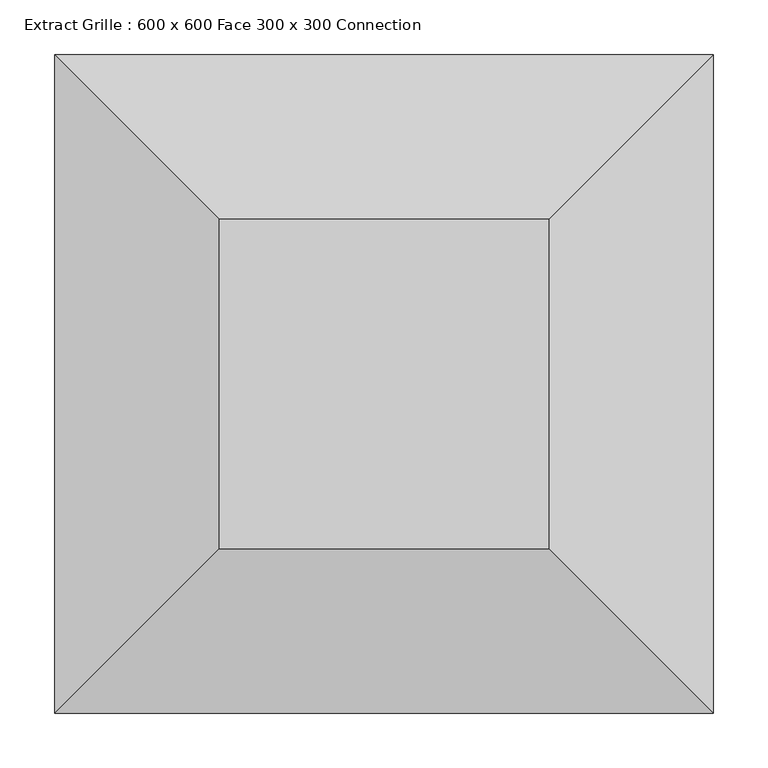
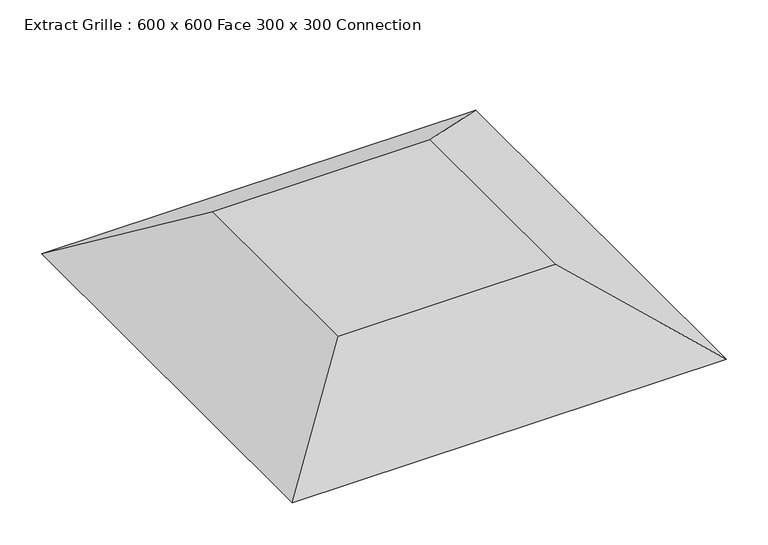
"""IFC4 building model written with IfcOpenShell, lengths in millimetres: air terminal geometry, Extract Grille : 600 x 600 Face 300 x 300 Connection."""

import ifcopenshell
import ifcopenshell.guid

model = None  # the IFC model being written
_history = None  # IfcOwnerHistory: only IFC2X3 demands one
_inside = {}  # id of a spatial element -> (the spatial element, [elements in it])
_under = {}  # id of a project, library or spatial element -> (it, [spatial elements below it])
_declared = {}  # id of a project -> (the project, [libraries it declares])
_typed = {}  # id of a type object -> (the type object, [elements of that type])
_made_of = {}  # id of a material, layer set ... -> (it, [elements and type objects made of it])


def new_model(schema):
    """Start an empty IFC model of exactly this schema.

    Asked for "IFC4X3", IfcOpenShell would pick the latest addendum, in which some entities
    have other attributes; the version numbers below select the first issue.
    IFC2X3 requires an IfcOwnerHistory on every rooted entity: one is made here for all.
    """
    global model, _history
    if schema == "IFC4X3":
        model = ifcopenshell.file(schema_version=(4, 3, 0, 0))
    else:
        model = ifcopenshell.file(schema=schema)
    _inside.clear()
    _under.clear()
    _declared.clear()
    _typed.clear()
    _made_of.clear()
    _history = None
    if model.schema == "IFC2X3":
        org = make("IfcOrganization", Name="unknown")
        user = make(
            "IfcPersonAndOrganization",
            ThePerson=make("IfcPerson", FamilyName="unknown"),
            TheOrganization=org,
        )
        app = make(
            "IfcApplication",
            ApplicationDeveloper=org,
            Version="unknown",
            ApplicationFullName="unknown",
            ApplicationIdentifier="unknown",
        )
        _history = make(
            "IfcOwnerHistory",
            OwningUser=user,
            OwningApplication=app,
            ChangeAction="ADDED",
            CreationDate=0,
        )
    return model


def make(cls, **values):
    """One entity of the class cls with the attributes given. An attribute that is None is left unset."""
    return model.create_entity(
        cls, **{name: value for name, value in values.items() if value is not None}
    )


def rooted(cls, **values):
    """An entity with a GlobalId (a new one), such as an element, a storey or a relation."""
    return make(cls, GlobalId=ifcopenshell.guid.new(), OwnerHistory=_history, **values)


def si_unit(unit_type, name, prefix=None):
    """IfcSIUnit, for example si_unit("LENGTHUNIT", "METRE", prefix="MILLI")."""
    return make("IfcSIUnit", UnitType=unit_type, Prefix=prefix, Name=name)


def assignment(units):
    """IfcUnitAssignment: the units of a project."""
    return None if units is None else make("IfcUnitAssignment", Units=units)


def point(xyz):
    """IfcCartesianPoint."""
    return None if xyz is None else make("IfcCartesianPoint", Coordinates=xyz)


def direction(xyz):
    """IfcDirection."""
    return None if xyz is None else make("IfcDirection", DirectionRatios=xyz)


def frame(location, z_axis=None, x_axis=None):
    """IfcAxis2Placement3D, a coordinate frame: its origin and axes. An axis left out is left unset."""
    return make(
        "IfcAxis2Placement3D",
        Location=point(location),
        Axis=direction(z_axis),
        RefDirection=direction(x_axis),
    )


def origin():
    """The frame at (0, 0, 0) with its axes left unset."""
    return frame((0.0, 0.0, 0.0))


def place(relative_to, where):
    """IfcLocalPlacement: puts the frame where relative to a parent placement (None: the world)."""
    return make(
        "IfcLocalPlacement", PlacementRelTo=relative_to, RelativePlacement=where
    )


def context(
    kind, dimensions, precision=None, world=None, true_north=None, identifier=None
):
    """IfcGeometricRepresentationContext, for example the 3D "Model" context."""
    return make(
        "IfcGeometricRepresentationContext",
        ContextIdentifier=identifier,
        ContextType=kind,
        CoordinateSpaceDimension=dimensions,
        Precision=precision,
        WorldCoordinateSystem=world,
        TrueNorth=true_north,
    )


def project(units=None, contexts=None):
    """IfcProject with its units and contexts."""
    return rooted(
        "IfcProject",
        Name="project",
        RepresentationContexts=contexts,
        UnitsInContext=assignment(units),
    )


def spatial(cls, under=None, at=None, **own):
    """A site, building, storey or space (cls), placed at a placement, below another one or the project."""
    s = rooted(cls, ObjectPlacement=at, **own)
    if under is not None:
        _under.setdefault(under.id(), (under, []))[1].append(s)
    return s


def faces_of(points, faces, orient=None, outer=None):
    """IfcFace entities. A face is a list of loops; a loop is a list of indices into points, from 0.

    orient and outer hold one flag for each loop. By default every Orientation is true, the
    first loop of a face is its IfcFaceOuterBound and the others are IfcFaceBound.
    """
    made = []
    for i, loops in enumerate(faces):
        bounds = []
        for j, loop in enumerate(loops):
            is_outer = j == 0 if outer is None else outer[i][j]
            bounds.append(
                make(
                    "IfcFaceOuterBound" if is_outer else "IfcFaceBound",
                    Bound=make("IfcPolyLoop", Polygon=[points[k] for k in loop]),
                    Orientation=True if orient is None else orient[i][j],
                )
            )
        made.append(make("IfcFace", Bounds=bounds))
    return made


def faceted_brep(points, faces, orient=None, outer=None, voids=None):
    """IfcFacetedBrep: a solid bounded by flat faces; with voids (closed shells), ...WithVoids."""
    shared = [point(p) for p in points]
    hull = make("IfcClosedShell", CfsFaces=faces_of(shared, faces, orient, outer))
    if voids is None:
        return make("IfcFacetedBrep", Outer=hull)
    return make(
        "IfcFacetedBrepWithVoids",
        Outer=hull,
        Voids=[
            make(cls, CfsFaces=faces_of(shared, fs, o, b)) for cls, fs, o, b in voids
        ],
    )


def shape(context_of_items, identifier, shape_type, items):
    """IfcShapeRepresentation: the items that make up one representation, for example the "Body"."""
    return make(
        "IfcShapeRepresentation",
        ContextOfItems=context_of_items,
        RepresentationIdentifier=identifier,
        RepresentationType=shape_type,
        Items=items,
    )


def source(mapping_origin, context_of_items, identifier, shape_type, items):
    """IfcRepresentationMap: a shape defined once, which mapped items show again and again."""
    return make(
        "IfcRepresentationMap",
        MappingOrigin=mapping_origin,
        MappedRepresentation=shape(context_of_items, identifier, shape_type, items),
    )


def transform(
    local_origin,
    x_axis=None,
    y_axis=None,
    z_axis=None,
    scale=None,
    scale2=None,
    scale3=None,
    uniform=True,
):
    """IfcCartesianTransformationOperator3D, or its non-uniform kind. x_axis, y_axis, z_axis: its Axis1, 2, 3."""
    if uniform:
        return make(
            "IfcCartesianTransformationOperator3D",
            Axis1=direction(x_axis),
            Axis2=direction(y_axis),
            LocalOrigin=point(local_origin),
            Scale=scale,
            Axis3=direction(z_axis),
        )
    return make(
        "IfcCartesianTransformationOperator3DnonUniform",
        Axis1=direction(x_axis),
        Axis2=direction(y_axis),
        LocalOrigin=point(local_origin),
        Scale=scale,
        Axis3=direction(z_axis),
        Scale2=scale2,
        Scale3=scale3,
    )


def mapped(mapping_source, mapping_target):
    """IfcMappedItem: shows the shape of a source again, moved by a transform."""
    return make(
        "IfcMappedItem", MappingSource=mapping_source, MappingTarget=mapping_target
    )


def made_of(thing, what):
    """Note that an element or type object is made of a material, layer set ...; save() writes the relation."""
    if what is not None:
        _made_of.setdefault(what.id(), (what, []))[1].append(thing)
    return thing


def element(
    cls,
    number,
    at=None,
    inside=None,
    cuts=None,
    type_object=None,
    material=None,
    context=None,
    identifier="Body",
    shape_type=None,
    held_by="IfcProductDefinitionShape",
    body=None,
    shapes=None,
    **own,
):
    """One element of the class cls, such as IfcWall. Its Tag is "e" and its number.

    at: its placement. inside: the storey or other place that contains it. cuts: it is an
    opening in that element (IfcRelVoidsElement). A single representation is given by context,
    identifier, shape_type and body (its items); several are given by shapes. held_by: the class
    of the entity that holds the representations. save() writes the other relations.
    """
    e = rooted(cls, Tag="e%d" % number, ObjectPlacement=at, **own)
    if body is not None:
        shapes = [shape(context, identifier, shape_type, body)]
    if shapes is not None:
        e.Representation = make(held_by, Representations=shapes)
    if inside is not None:
        _inside.setdefault(inside.id(), (inside, []))[1].append(e)
    if cuts is not None:
        rooted(
            "IfcRelVoidsElement", RelatingBuildingElement=cuts, RelatedOpeningElement=e
        )
    if type_object is not None:
        _typed.setdefault(type_object.id(), (type_object, []))[1].append(e)
    return made_of(e, material)


def aggregate(whole, parts):
    """IfcRelAggregates: a whole, such as a stair, and the parts it consists of."""
    return rooted("IfcRelAggregates", RelatingObject=whole, RelatedObjects=parts)


def save(model, path):
    """Write the relations noted so far, then the file.

    IfcRelAggregates (storeys below a building ...), IfcRelContainedInSpatialStructure (elements
    in a storey), IfcRelDefinesByType, IfcRelAssociatesMaterial and IfcRelDeclares: one each for
    every whole, place, type object, material and project.
    """
    for whole, parts in _under.values():
        aggregate(whole, parts)
    for where, things in _inside.values():
        rooted(
            "IfcRelContainedInSpatialStructure",
            RelatedElements=things,
            RelatingStructure=where,
        )
    for kind, things in _typed.values():
        rooted("IfcRelDefinesByType", RelatedObjects=things, RelatingType=kind)
    for what, things in _made_of.values():
        rooted("IfcRelAssociatesMaterial", RelatedObjects=things, RelatingMaterial=what)
    for by, libraries in _declared.values():
        rooted("IfcRelDeclares", RelatingContext=by, RelatedDefinitions=libraries)
    model.write(path)


def extract_grille_600_x_600_face_300_x_300_connection_2ef68f4f(model_context):
    return source(origin(), model_context, "Body", "Brep", [
        faceted_brep([(150.0, -150.0, 100.0), (150.0, 150.0, 100.0), (-150.0, 150.0, 100.0), (-150.0, -150.0, 100.0), (300.0, -300.0, 0.0), (-300.0, -300.0, 0.0), (-300.0, 300.0, 0.0), (300.0, 300.0, 0.0)], [[[0, 1, 2, 3]], [[4, 5, 6, 7]], [[4, 0, 3, 5]], [[5, 3, 2, 6]], [[6, 2, 1, 7]], [[7, 1, 0, 4]]]),
    ])


if __name__ == "__main__":
    model = new_model("IFC4")
    model_context = context("Model", 3, world=origin())
    ifc_project = project(units=[si_unit("LENGTHUNIT", "METRE", prefix="MILLI")], contexts=[model_context])
    site = spatial("IfcSite", under=ifc_project)
    building = spatial("IfcBuilding", under=site)
    placement = place(None, origin())
    extract_grille_600_x_600_face_300_x_300_connection_shape = extract_grille_600_x_600_face_300_x_300_connection_2ef68f4f(model_context)
    element("IfcAirTerminal", 1, ObjectType="Extract Grille : 600 x 600 Face 300 x 300 Connection", at=placement, inside=building, context=model_context, shape_type="MappedRepresentation", body=[
        mapped(extract_grille_600_x_600_face_300_x_300_connection_shape, transform((0.0, 0.0, 0.0), x_axis=(1.0, 0.0, 0.0), y_axis=(0.0, 1.0, 0.0), z_axis=(0.0, 0.0, 1.0))),
    ])
    save(model, "model.ifc")
